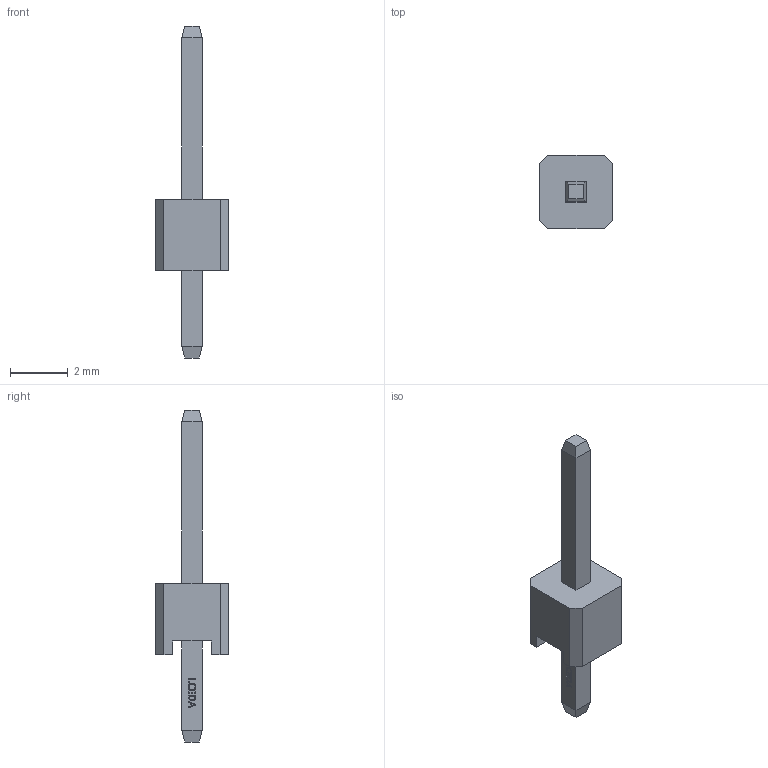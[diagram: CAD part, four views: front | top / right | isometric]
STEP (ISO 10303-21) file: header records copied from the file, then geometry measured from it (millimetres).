
FILE_DESCRIPTION(/* description */ ('STEP AP242 Edition 2','CAx-IF Rec.Pracs.---Representation and Presentation of Product Manufacturing Information (PMI)---4.0---2014-10-13','CAx-IF Rec.Pracs.---3D Tessellated Geometry---0.4---2014-09-14','2;1','CAx-IF Rec.Pracs.---User Defined Attributes---1.5---2016-08-15'),/* implementation_level */ '2;1');
FILE_NAME(/* name */ 'Assembly 1 - BAT-TH_2P-9VBATTERY~HDR-TH_2P-P2.54-M-LI-1X2P_1~nxQB',/* time_stamp */ '2026-04-02T09:55:07Z',/* author */ (''),/* organization */ (''),/* preprocessor_version */ 'ST-DEVELOPER v20',/* originating_system */ 'ONSHAPE BY PTC INC, 1.212',/* authorisation */ ' ');
FILE_SCHEMA (('AP242_MANAGED_MODEL_BASED_3D_ENGINEERING_MIM_LF { 1 0 10303 442 3 1 4 }'));
Length unit declared in the file: metre
Products named in the file (1): BAT-TH_2P-9VBATTERY~HDR-TH_2P-P2.54-M-LI-1X2P_1~nxQB
Bounding box: 2.54 x 2.54 x 11.5 mm (x, y, z)
Volume: 18.4 mm3; surface area: 62.9 mm2
Topology: 1 solids, 1 shells, 91 faces, 232 edges, 152 vertices
Faces by surface type: plane 78, bspline 8, cylinder 5
Entity records: 3853 total; most frequent: CARTESIAN_POINT 1046, ORIENTED_EDGE 464, DIRECTION 390, EDGE_CURVE 232, LINE 202, VECTOR 202, VERTEX_POINT 152, EDGE_LOOP 100
